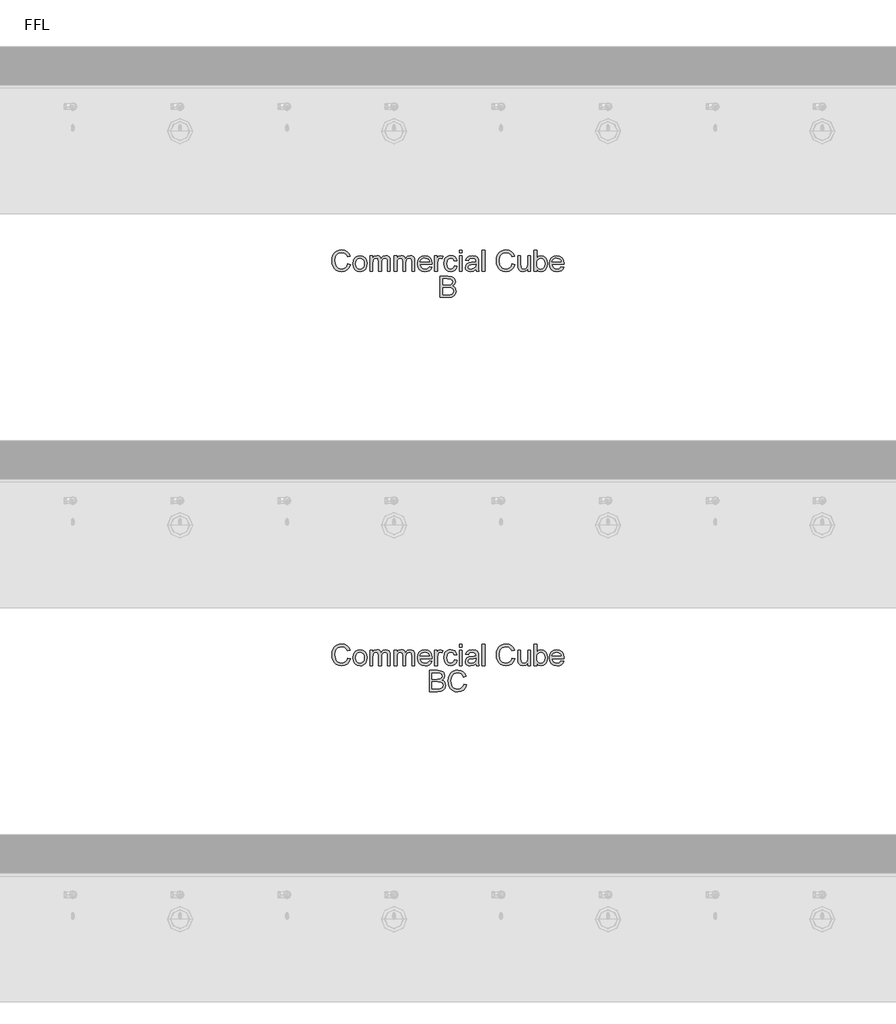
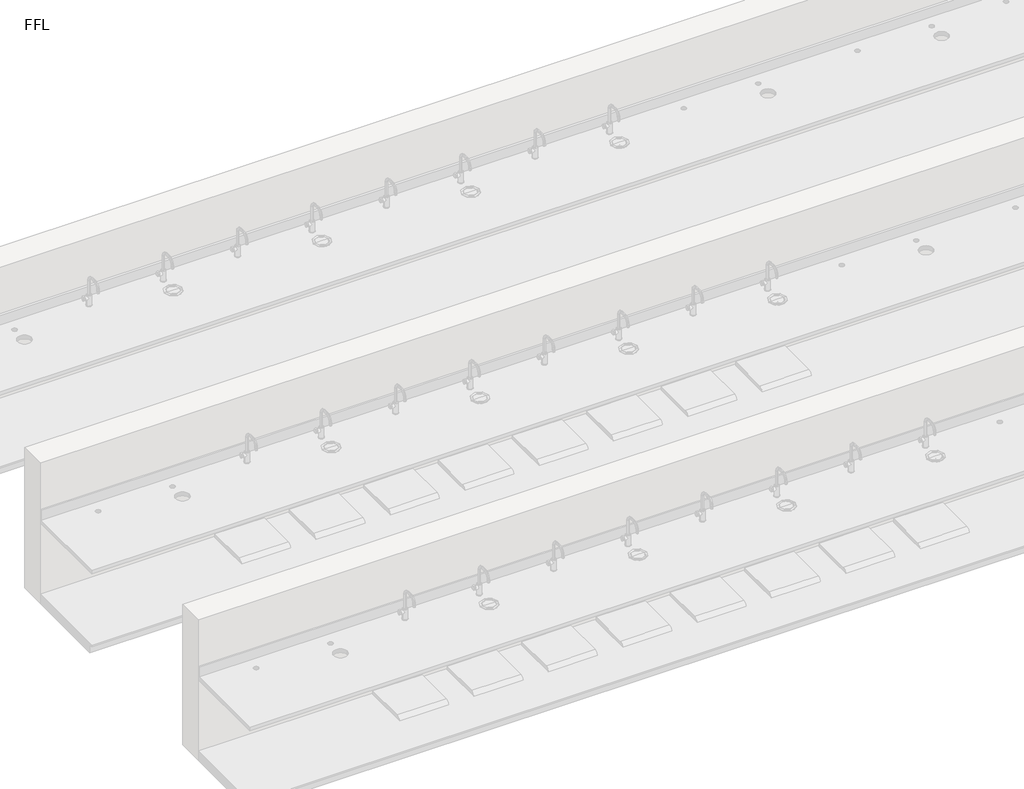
# One storey, part 12 of 14: 2 proxies.
"""IFC4 building model written with IfcOpenShell, lengths in millimetres."""

from ifc_helpers import new_model, si_unit, origin, origin_with_axes, place, context, project, spatial, polyline, outline, extrude, element, save

model = new_model("IFC4")

# Units and contexts
model_context = context("Model", 3, world=origin())
ifc_project = project(units=[si_unit("LENGTHUNIT", "METRE", prefix="MILLI")], contexts=[model_context])

# Site, building, storey
site = spatial("IfcSite", under=ifc_project)
building = spatial("IfcBuilding", under=site)
storey = spatial("IfcBuildingStorey", under=building, Name="FFL", Elevation=0.0)

# Proxies
placement = place(None, origin())
element("IfcBuildingElementProxy", 1, Name="150mm Arial", ObjectType="150mm Arial", at=placement, inside=storey, context=model_context, shape_type="SweptSolid", body=[
    extrude(outline(polyline([(-3043.9660621, 6596.3018309), (-3025.5045236, 6591.5422155), (-3034.0231534, 6570.0292948), (-3047.3915429, 6554.3126482), (-3064.951639, 6544.698766), (-3086.045389, 6541.4941386), (-3107.459151, 6543.9190184), (-3124.4648602, 6551.1936578), (-3137.4997159, 6563.065653), (-3147.0009179, 6579.2826001), (-3152.8016991, 6598.3481049), (-3154.7352929, 6618.7657732), (-3152.5492953, 6640.3012299), (-3145.9913025, 6658.8979847), (-3135.4038626, 6673.9655929), (-3121.1295236, 6684.9136097), (-3104.2004371, 6691.5797756), (-3085.6487544, 6693.8018309), (-3065.4068674, 6690.9262299), (-3048.6715909, 6682.299427), (-3035.9657616, 6668.4532732), (-3027.8122159, 6649.9196193), (-3046.2737544, 6645.5205809), (-3052.6739948, 6658.9836217), (-3061.4179852, 6668.2188982), (-3072.6138986, 6673.5599439), (-3086.3699083, 6675.3402924), (-3102.2262784, 6673.3661338), (-3115.2521198, 6667.4436578), (-3125.1364347, 6658.1948597), (-3131.5682256, 6646.2417347), (-3136.2737544, 6618.8018309), (-3130.7028409, 6586.9989463), (-3123.5814467, 6575.1224439), (-3113.3590909, 6566.6804367), (-3101.1039828, 6561.6368669), (-3087.8843313, 6559.955677), (-3072.4741751, 6562.2453405), (-3059.6331294, 6569.1143309), (-3049.9381174, 6580.4905328), (-3043.9660621, 6596.3018309)])), origin_with_axes(), (0.0, 0.0, 1.0), 5.0),
    extrude(outline(polyline([(-3007.0429852, 6598.0326001), (-3003.0495958, 6624.1834415), (-2991.0694275, 6642.5638501), (-2976.2677448, 6651.5692588), (-2958.545389, 6654.5710617), (-2939.1508578, 6650.9157131), (-2923.6595717, 6639.9496674), (-2913.5048241, 6622.5383092), (-2910.1199083, 6599.5470232), (-2911.6163025, 6580.8961818), (-2916.1054852, 6566.6984655), (-2923.4567472, 6556.0659535), (-2933.5393794, 6548.1107251), (-2945.5150405, 6543.1482852), (-2958.545389, 6541.4941386), (-2978.1742953, 6545.1359655), (-2993.6475525, 6556.0614463), (-3003.694127, 6573.8378886), (-3007.0429852, 6598.0326001)]), holes=[polyline([(-2988.5814467, 6598.0686578), (-2986.4450284, 6581.3604246), (-2980.0357736, 6569.456879), (-2970.3903409, 6562.3309775), (-2958.545389, 6559.955677), (-2946.7545236, 6562.3444992), (-2937.1271198, 6569.5109655), (-2930.717865, 6581.5722636), (-2928.5814467, 6598.6455809), (-2930.7313866, 6614.8670352), (-2937.1812063, 6626.6083213), (-2946.8221318, 6633.7342227), (-2958.545389, 6636.1095232), (-2970.3903409, 6633.7432371), (-2980.0357736, 6626.644379), (-2986.4450284, 6614.7678766), (-2988.5814467, 6598.0686578)])]), origin_with_axes(), (0.0, 0.0, 1.0), 5.0),
    extrude(outline(polyline([(-2889.3506775, 6543.8018309), (-2889.3506775, 6652.2633693), (-2870.889139, 6652.2633693), (-2870.889139, 6634.4148117), (-2858.1968313, 6649.0362059), (-2840.1319275, 6654.5710617), (-2829.8644996, 6653.1603044), (-2821.6343313, 6648.9280328), (-2811.4660621, 6633.1167347), (-2797.061014, 6649.2074799), (-2778.8699083, 6654.5710617), (-2764.9922039, 6652.3399919), (-2754.7292833, 6645.6467828), (-2748.3876366, 6634.3111458), (-2746.2737544, 6618.1527924), (-2746.2737544, 6543.8018309), (-2764.7352929, 6543.8018309), (-2764.7352929, 6610.2201001), (-2766.4480333, 6625.6347636), (-2772.6499563, 6633.2249078), (-2783.1968313, 6636.1095232), (-2793.1983337, 6634.2615665), (-2801.3518794, 6628.7176963), (-2806.7740549, 6619.0993068), (-2808.5814467, 6605.0277924), (-2808.5814467, 6543.8018309), (-2827.0429852, 6543.8018309), (-2827.0429852, 6612.2753886), (-2831.3158217, 6630.160004), (-2836.9543434, 6634.6221434), (-2845.3242352, 6636.1095232), (-2858.9901006, 6632.143177), (-2868.076639, 6620.5326001), (-2870.889139, 6598.5013501), (-2870.889139, 6543.8018309), (-2889.3506775, 6543.8018309)])), origin_with_axes(), (0.0, 0.0, 1.0), 5.0),
    extrude(outline(polyline([(-2718.5814467, 6543.8018309), (-2718.5814467, 6652.2633693), (-2700.1199083, 6652.2633693), (-2700.1199083, 6634.4148117), (-2687.4276006, 6649.0362059), (-2669.3626967, 6654.5710617), (-2659.0952688, 6653.1603044), (-2650.8651006, 6648.9280328), (-2640.6968313, 6633.1167347), (-2626.2917833, 6649.2074799), (-2608.1006775, 6654.5710617), (-2594.2229732, 6652.3399919), (-2583.9600525, 6645.6467828), (-2577.6184059, 6634.3111458), (-2575.5045236, 6618.1527924), (-2575.5045236, 6543.8018309), (-2593.9660621, 6543.8018309), (-2593.9660621, 6610.2201001), (-2595.6788025, 6625.6347636), (-2601.8807256, 6633.2249078), (-2612.4276006, 6636.1095232), (-2622.429103, 6634.2615665), (-2630.5826486, 6628.7176963), (-2636.0048241, 6619.0993068), (-2637.8122159, 6605.0277924), (-2637.8122159, 6543.8018309), (-2656.2737544, 6543.8018309), (-2656.2737544, 6612.2753886), (-2660.5465909, 6630.160004), (-2666.1851126, 6634.6221434), (-2674.5550044, 6636.1095232), (-2688.2208698, 6632.143177), (-2697.3074083, 6620.5326001), (-2700.1199083, 6598.5013501), (-2700.1199083, 6543.8018309), (-2718.5814467, 6543.8018309)])), origin_with_axes(), (0.0, 0.0, 1.0), 5.0),
    extrude(outline(polyline([(-2471.8747159, 6576.1095232), (-2453.7737544, 6573.8018309), (-2460.2956895, 6560.1630088), (-2470.7028409, 6549.9676963), (-2484.7608337, 6543.612528), (-2502.2352929, 6541.4941386), (-2523.8969515, 6545.1494871), (-2540.5646198, 6556.1155328), (-2551.1926246, 6573.6801362), (-2554.7352929, 6597.1311578), (-2551.1565669, 6621.3709415), (-2540.420389, 6639.4989463), (-2523.9780813, 6650.8030328), (-2503.2809659, 6654.5710617), (-2483.2283818, 6650.8120472), (-2467.2052448, 6639.535004), (-2456.6989347, 6621.4430568), (-2453.1968313, 6597.2393309), (-2453.3050044, 6592.2633693), (-2536.2737544, 6592.2633693), (-2533.0781414, 6578.4442588), (-2525.654764, 6568.285004), (-2514.9411222, 6562.0380088), (-2501.8747159, 6559.955677), (-2483.7737544, 6563.8138501), (-2471.8747159, 6576.1095232)]), holes=[polyline([(-2536.2737544, 6610.7249078), (-2471.6583698, 6610.7249078), (-2474.155365, 6620.4785136), (-2479.0501967, 6627.455677), (-2489.8134179, 6633.9460617), (-2503.3530813, 6636.1095232), (-2515.7974924, 6634.3832612), (-2526.0874563, 6629.2044751), (-2533.240401, 6621.1320592), (-2536.2737544, 6610.7249078)])]), origin_with_axes(), (0.0, 0.0, 1.0), 5.0),
    extrude(outline(polyline([(-2434.7352929, 6543.8018309), (-2434.7352929, 6652.2633693), (-2418.5814467, 6652.2633693), (-2418.5814467, 6636.2176963), (-2407.1151006, 6651.0013501), (-2395.576639, 6654.5710617), (-2377.0429852, 6648.8739463), (-2383.2088506, 6632.3234655), (-2396.1896198, 6636.1095232), (-2406.6283217, 6632.4676963), (-2413.2809659, 6622.3715424), (-2416.2737544, 6600.8090424), (-2416.2737544, 6543.8018309), (-2434.7352929, 6543.8018309)])), origin_with_axes(), (0.0, 0.0, 1.0), 5.0),
    extrude(outline(polyline([(-2296.2737544, 6583.0326001), (-2277.8122159, 6580.7249078), (-2282.9594515, 6564.3051362), (-2292.6319275, 6551.8967828), (-2305.9191871, 6544.0947996), (-2321.9107736, 6541.4941386), (-2341.5486943, 6545.1224439), (-2356.904764, 6556.0073597), (-2366.8161222, 6573.6711217), (-2370.1199083, 6597.6359655), (-2364.4768794, 6628.3030328), (-2357.3554852, 6639.8009294), (-2347.2773602, 6648.0085617), (-2335.2205693, 6652.9304367), (-2322.1631775, 6654.5710617), (-2306.5637184, 6652.3174559), (-2294.092264, 6645.5566386), (-2285.1454491, 6634.6491867), (-2280.1199083, 6619.955677), (-2298.5814467, 6617.6479847), (-2307.1451486, 6631.4761097), (-2322.0189467, 6636.1095232), (-2333.9495357, 6633.8288742), (-2343.4191871, 6626.986927), (-2349.5985741, 6615.2140905), (-2351.6583698, 6598.1407732), (-2349.6436462, 6580.8375881), (-2343.5994756, 6569.0241867), (-2334.3010982, 6562.2228044), (-2322.5237544, 6559.955677), (-2312.9639587, 6561.3709415), (-2305.1259179, 6565.6167347), (-2299.4242953, 6572.8012299), (-2296.2737544, 6583.0326001)])), origin_with_axes(), (0.0, 0.0, 1.0), 5.0),
    extrude(outline(polyline([(-2261.6583698, 6673.0326001), (-2261.6583698, 6691.4941386), (-2243.1968313, 6691.4941386), (-2243.1968313, 6673.0326001), (-2261.6583698, 6673.0326001)])), origin_with_axes(), (0.0, 0.0, 1.0), 5.0),
    extrude(outline(polyline([(-2261.6583698, 6543.8018309), (-2261.6583698, 6652.2633693), (-2243.1968313, 6652.2633693), (-2243.1968313, 6543.8018309), (-2261.6583698, 6543.8018309)])), origin_with_axes(), (0.0, 0.0, 1.0), 5.0),
    extrude(outline(polyline([(-2146.2737544, 6557.6479847), (-2164.1763986, 6545.1359655), (-2183.9540429, 6541.4941386), (-2199.382228, 6543.6846434), (-2210.7629371, 6550.2561578), (-2217.7806655, 6560.2351242), (-2220.1199083, 6572.6479847), (-2216.5862544, 6587.2513501), (-2207.3013986, 6597.8523117), (-2194.3747159, 6603.910004), (-2178.4011583, 6606.6864463), (-2146.3819275, 6613.0326001), (-2146.2737544, 6617.143177), (-2147.5447881, 6625.3823597), (-2151.357889, 6630.7729847), (-2159.8855333, 6634.7753886), (-2171.7665429, 6636.1095232), (-2190.4444275, 6632.5578405), (-2199.3506775, 6619.955677), (-2217.8122159, 6622.2633693), (-2209.8254371, 6640.2922155), (-2193.7437063, 6650.8571193), (-2169.3867352, 6654.5710617), (-2147.0129371, 6651.2898117), (-2134.3747159, 6643.050629), (-2128.7136583, 6630.5205809), (-2127.8122159, 6614.3667347), (-2127.8122159, 6591.3979847), (-2126.8747159, 6559.3246674), (-2123.1968313, 6543.8018309), (-2141.6583698, 6543.8018309), (-2146.2737544, 6557.6479847)]), holes=[polyline([(-2146.2737544, 6594.5710617), (-2176.0574083, 6588.910004), (-2191.9408217, 6585.9172155), (-2199.1343313, 6581.049427), (-2201.6583698, 6573.9460617), (-2196.1595717, 6563.9580809), (-2180.0237544, 6559.955677), (-2161.3458698, 6564.3727443), (-2149.3026006, 6575.0638501), (-2146.3819275, 6589.3426963), (-2146.2737544, 6594.5710617)])]), origin_with_axes(), (0.0, 0.0, 1.0), 5.0),
    extrude(outline(polyline([(-2102.4276006, 6543.8018309), (-2102.4276006, 6691.4941386), (-2083.9660621, 6691.4941386), (-2083.9660621, 6543.8018309), (-2102.4276006, 6543.8018309)])), origin_with_axes(), (0.0, 0.0, 1.0), 5.0),
    extrude(outline(polyline([(-1892.4276006, 6596.3018309), (-1873.9660621, 6591.5422155), (-1882.4846919, 6570.0292948), (-1895.8530813, 6554.3126482), (-1913.4131775, 6544.698766), (-1934.5069275, 6541.4941386), (-1955.9206895, 6543.9190184), (-1972.9263986, 6551.1936578), (-1985.9612544, 6563.065653), (-1995.4624563, 6579.2826001), (-2001.2632376, 6598.3481049), (-2003.1968313, 6618.7657732), (-2001.0108337, 6640.3012299), (-1994.4528409, 6658.8979847), (-1983.865401, 6673.9655929), (-1969.5910621, 6684.9136097), (-1952.6619756, 6691.5797756), (-1934.1102929, 6693.8018309), (-1913.8684059, 6690.9262299), (-1897.1331294, 6682.299427), (-1884.4273001, 6668.4532732), (-1876.2737544, 6649.9196193), (-1894.7352929, 6645.5205809), (-1901.1355333, 6658.9836217), (-1909.8795236, 6668.2188982), (-1921.0754371, 6673.5599439), (-1934.8314467, 6675.3402924), (-1950.6878169, 6673.3661338), (-1963.7136583, 6667.4436578), (-1973.5979732, 6658.1948597), (-1980.029764, 6646.2417347), (-1984.7352929, 6618.8018309), (-1979.1643794, 6586.9989463), (-1972.0429852, 6575.1224439), (-1961.8206294, 6566.6804367), (-1949.5655212, 6561.6368669), (-1936.3458698, 6559.955677), (-1920.9357135, 6562.2453405), (-1908.0946679, 6569.1143309), (-1898.3996559, 6580.4905328), (-1892.4276006, 6596.3018309)])), origin_with_axes(), (0.0, 0.0, 1.0), 5.0),
    extrude(outline(polyline([(-1781.6583698, 6543.8018309), (-1781.6583698, 6562.4436578), (-1796.1175044, 6546.7315184), (-1814.9756775, 6541.4941386), (-1832.3374563, 6545.1720232), (-1844.3086102, 6554.4027924), (-1849.8074083, 6567.9965424), (-1850.889139, 6585.160004), (-1850.889139, 6652.2633693), (-1832.4276006, 6652.2633693), (-1832.4276006, 6593.8499078), (-1831.3098121, 6575.0277924), (-1824.0081294, 6563.9761097), (-1810.2521198, 6559.955677), (-1794.8374563, 6564.066254), (-1784.6511583, 6575.2621674), (-1781.6583698, 6595.8330809), (-1781.6583698, 6652.2633693), (-1763.1968313, 6652.2633693), (-1763.1968313, 6543.8018309), (-1781.6583698, 6543.8018309)])), origin_with_axes(), (0.0, 0.0, 1.0), 5.0),
    extrude(outline(polyline([(-1719.3506775, 6543.8018309), (-1737.8122159, 6543.8018309), (-1737.8122159, 6691.4941386), (-1719.3506775, 6691.4941386), (-1719.3506775, 6636.722504), (-1706.4239948, 6650.1089222), (-1690.3602929, 6654.5710617), (-1671.8626967, 6650.550629), (-1657.5117352, 6639.2465424), (-1648.6956294, 6621.6684174), (-1645.5045236, 6599.6551963), (-1648.8083097, 6575.0097636), (-1658.7196679, 6556.674427), (-1673.2644395, 6545.2892107), (-1690.4684659, 6541.4941386), (-1706.8837304, 6546.3889703), (-1719.3506775, 6561.0734655), (-1719.3506775, 6543.8018309)]), holes=[polyline([(-1719.3506775, 6598.7898117), (-1718.0886583, 6583.393177), (-1714.3026006, 6572.972504), (-1704.6301246, 6563.2098838), (-1692.0550044, 6559.955677), (-1681.3999563, 6562.3535136), (-1672.295389, 6569.5470232), (-1666.0483938, 6581.4911338), (-1663.9660621, 6598.1407732), (-1665.9627568, 6615.033802), (-1671.9528409, 6626.8426963), (-1680.7734539, 6633.7928165), (-1691.2617352, 6636.1095232), (-1701.9167833, 6633.7116867), (-1711.0213506, 6626.518177), (-1717.2683458, 6614.7904126), (-1719.3506775, 6598.7898117)])]), origin_with_axes(), (0.0, 0.0, 1.0), 5.0),
    extrude(outline(polyline([(-1548.7977929, 6576.1095232), (-1530.6968313, 6573.8018309), (-1537.2187664, 6560.1630088), (-1547.6259179, 6549.9676963), (-1561.6839107, 6543.612528), (-1579.1583698, 6541.4941386), (-1600.8200284, 6545.1494871), (-1617.4876967, 6556.1155328), (-1628.1157015, 6573.6801362), (-1631.6583698, 6597.1311578), (-1628.0796438, 6621.3709415), (-1617.3434659, 6639.4989463), (-1600.9011583, 6650.8030328), (-1580.2040429, 6654.5710617), (-1560.1514587, 6650.8120472), (-1544.1283217, 6639.535004), (-1533.6220116, 6621.4430568), (-1530.1199083, 6597.2393309), (-1530.2280813, 6592.2633693), (-1613.1968313, 6592.2633693), (-1610.0012184, 6578.4442588), (-1602.5778409, 6568.285004), (-1591.8641991, 6562.0380088), (-1578.7977929, 6559.955677), (-1560.6968313, 6563.8138501), (-1548.7977929, 6576.1095232)]), holes=[polyline([(-1613.1968313, 6610.7249078), (-1548.5814467, 6610.7249078), (-1551.0784419, 6620.4785136), (-1555.9732736, 6627.455677), (-1566.7364948, 6633.9460617), (-1580.2761583, 6636.1095232), (-1592.7205693, 6634.3832612), (-1603.0105333, 6629.2044751), (-1610.163478, 6621.1320592), (-1613.1968313, 6610.7249078)])]), origin_with_axes(), (0.0, 0.0, 1.0), 5.0),
    extrude(outline(polyline([(-2396.6583698, 6361.4941386), (-2396.6583698, 6509.1864463), (-2340.3001967, 6509.1864463), (-2312.6980333, 6504.8414943), (-2303.4221919, 6499.3291746), (-2296.3999563, 6491.4821193), (-2290.5045236, 6472.5878886), (-2295.4624563, 6455.3342828), (-2310.4444275, 6442.2633693), (-2299.9831895, 6436.800629), (-2292.2533217, 6428.4893309), (-2287.4801847, 6417.8793549), (-2285.889139, 6405.5205809), (-2290.2340909, 6385.6708213), (-2300.9973121, 6371.5362059), (-2317.061014, 6364.0362059), (-2340.732889, 6361.4941386), (-2396.6583698, 6361.4941386)]), holes=[polyline([(-2378.1968313, 6449.1864463), (-2344.482889, 6449.1864463), (-2324.795389, 6450.7729847), (-2312.9504371, 6457.6059174), (-2308.9660621, 6469.6311578), (-2312.6800044, 6481.674427), (-2323.3170236, 6488.7958213), (-2347.0429852, 6490.7249078), (-2378.1968313, 6490.7249078), (-2378.1968313, 6449.1864463)]), polyline([(-2378.1968313, 6379.955677), (-2340.3362544, 6379.955677), (-2326.6343313, 6380.6768309), (-2315.0417833, 6384.6972636), (-2307.3614948, 6392.9003886), (-2304.3506775, 6405.3402924), (-2307.8843313, 6419.691254), (-2319.3326486, 6428.2549559), (-2342.139139, 6430.7249078), (-2378.1968313, 6430.7249078), (-2378.1968313, 6379.955677)])]), origin_with_axes(), (0.0, 0.0, 1.0), 5.0),
])
element("IfcBuildingElementProxy", 2, Name="150mm Arial", ObjectType="150mm Arial", at=placement, inside=storey, context=model_context, shape_type="SweptSolid", body=[
    extrude(outline(polyline([(-3043.9660621, 3836.3018309), (-3025.5045236, 3831.5422155), (-3034.0231534, 3810.0292948), (-3047.3915429, 3794.3126482), (-3064.951639, 3784.698766), (-3086.045389, 3781.4941386), (-3107.459151, 3783.9190184), (-3124.4648602, 3791.1936578), (-3137.4997159, 3803.065653), (-3147.0009179, 3819.2826001), (-3152.8016991, 3838.3481049), (-3154.7352929, 3858.7657732), (-3152.5492953, 3880.3012299), (-3145.9913025, 3898.8979847), (-3135.4038626, 3913.9655929), (-3121.1295236, 3924.9136097), (-3104.2004371, 3931.5797756), (-3085.6487544, 3933.8018309), (-3065.4068674, 3930.9262299), (-3048.6715909, 3922.299427), (-3035.9657616, 3908.4532732), (-3027.8122159, 3889.9196193), (-3046.2737544, 3885.5205809), (-3052.6739948, 3898.9836217), (-3061.4179852, 3908.2188982), (-3072.6138986, 3913.5599439), (-3086.3699083, 3915.3402924), (-3102.2262784, 3913.3661338), (-3115.2521198, 3907.4436578), (-3125.1364347, 3898.1948597), (-3131.5682256, 3886.2417347), (-3136.2737544, 3858.8018309), (-3130.7028409, 3826.9989463), (-3123.5814467, 3815.1224439), (-3113.3590909, 3806.6804367), (-3101.1039828, 3801.6368669), (-3087.8843313, 3799.955677), (-3072.4741751, 3802.2453405), (-3059.6331294, 3809.1143309), (-3049.9381174, 3820.4905328), (-3043.9660621, 3836.3018309)])), origin_with_axes(), (0.0, 0.0, 1.0), 5.0),
    extrude(outline(polyline([(-3007.0429852, 3838.0326001), (-3003.0495958, 3864.1834415), (-2991.0694275, 3882.5638501), (-2976.2677448, 3891.5692588), (-2958.545389, 3894.5710617), (-2939.1508578, 3890.9157131), (-2923.6595717, 3879.9496674), (-2913.5048241, 3862.5383092), (-2910.1199083, 3839.5470232), (-2911.6163025, 3820.8961818), (-2916.1054852, 3806.6984655), (-2923.4567472, 3796.0659535), (-2933.5393794, 3788.1107251), (-2945.5150405, 3783.1482852), (-2958.545389, 3781.4941386), (-2978.1742953, 3785.1359655), (-2993.6475525, 3796.0614463), (-3003.694127, 3813.8378886), (-3007.0429852, 3838.0326001)]), holes=[polyline([(-2988.5814467, 3838.0686578), (-2986.4450284, 3821.3604246), (-2980.0357736, 3809.456879), (-2970.3903409, 3802.3309775), (-2958.545389, 3799.955677), (-2946.7545236, 3802.3444992), (-2937.1271198, 3809.5109655), (-2930.717865, 3821.5722636), (-2928.5814467, 3838.6455809), (-2930.7313866, 3854.8670352), (-2937.1812063, 3866.6083213), (-2946.8221318, 3873.7342227), (-2958.545389, 3876.1095232), (-2970.3903409, 3873.7432371), (-2980.0357736, 3866.644379), (-2986.4450284, 3854.7678766), (-2988.5814467, 3838.0686578)])]), origin_with_axes(), (0.0, 0.0, 1.0), 5.0),
    extrude(outline(polyline([(-2889.3506775, 3783.8018309), (-2889.3506775, 3892.2633693), (-2870.889139, 3892.2633693), (-2870.889139, 3874.4148117), (-2858.1968313, 3889.0362059), (-2840.1319275, 3894.5710617), (-2829.8644996, 3893.1603044), (-2821.6343313, 3888.9280328), (-2811.4660621, 3873.1167347), (-2797.061014, 3889.2074799), (-2778.8699083, 3894.5710617), (-2764.9922039, 3892.3399919), (-2754.7292833, 3885.6467828), (-2748.3876366, 3874.3111458), (-2746.2737544, 3858.1527924), (-2746.2737544, 3783.8018309), (-2764.7352929, 3783.8018309), (-2764.7352929, 3850.2201001), (-2766.4480333, 3865.6347636), (-2772.6499563, 3873.2249078), (-2783.1968313, 3876.1095232), (-2793.1983337, 3874.2615665), (-2801.3518794, 3868.7176963), (-2806.7740549, 3859.0993068), (-2808.5814467, 3845.0277924), (-2808.5814467, 3783.8018309), (-2827.0429852, 3783.8018309), (-2827.0429852, 3852.2753886), (-2831.3158217, 3870.160004), (-2836.9543434, 3874.6221434), (-2845.3242352, 3876.1095232), (-2858.9901006, 3872.143177), (-2868.076639, 3860.5326001), (-2870.889139, 3838.5013501), (-2870.889139, 3783.8018309), (-2889.3506775, 3783.8018309)])), origin_with_axes(), (0.0, 0.0, 1.0), 5.0),
    extrude(outline(polyline([(-2718.5814467, 3783.8018309), (-2718.5814467, 3892.2633693), (-2700.1199083, 3892.2633693), (-2700.1199083, 3874.4148117), (-2687.4276006, 3889.0362059), (-2669.3626967, 3894.5710617), (-2659.0952688, 3893.1603044), (-2650.8651006, 3888.9280328), (-2640.6968313, 3873.1167347), (-2626.2917833, 3889.2074799), (-2608.1006775, 3894.5710617), (-2594.2229732, 3892.3399919), (-2583.9600525, 3885.6467828), (-2577.6184059, 3874.3111458), (-2575.5045236, 3858.1527924), (-2575.5045236, 3783.8018309), (-2593.9660621, 3783.8018309), (-2593.9660621, 3850.2201001), (-2595.6788025, 3865.6347636), (-2601.8807256, 3873.2249078), (-2612.4276006, 3876.1095232), (-2622.429103, 3874.2615665), (-2630.5826486, 3868.7176963), (-2636.0048241, 3859.0993068), (-2637.8122159, 3845.0277924), (-2637.8122159, 3783.8018309), (-2656.2737544, 3783.8018309), (-2656.2737544, 3852.2753886), (-2660.5465909, 3870.160004), (-2666.1851126, 3874.6221434), (-2674.5550044, 3876.1095232), (-2688.2208698, 3872.143177), (-2697.3074083, 3860.5326001), (-2700.1199083, 3838.5013501), (-2700.1199083, 3783.8018309), (-2718.5814467, 3783.8018309)])), origin_with_axes(), (0.0, 0.0, 1.0), 5.0),
    extrude(outline(polyline([(-2471.8747159, 3816.1095232), (-2453.7737544, 3813.8018309), (-2460.2956895, 3800.1630088), (-2470.7028409, 3789.9676963), (-2484.7608337, 3783.612528), (-2502.2352929, 3781.4941386), (-2523.8969515, 3785.1494871), (-2540.5646198, 3796.1155328), (-2551.1926246, 3813.6801362), (-2554.7352929, 3837.1311578), (-2551.1565669, 3861.3709415), (-2540.420389, 3879.4989463), (-2523.9780813, 3890.8030328), (-2503.2809659, 3894.5710617), (-2483.2283818, 3890.8120472), (-2467.2052448, 3879.535004), (-2456.6989347, 3861.4430568), (-2453.1968313, 3837.2393309), (-2453.3050044, 3832.2633693), (-2536.2737544, 3832.2633693), (-2533.0781414, 3818.4442588), (-2525.654764, 3808.285004), (-2514.9411222, 3802.0380088), (-2501.8747159, 3799.955677), (-2483.7737544, 3803.8138501), (-2471.8747159, 3816.1095232)]), holes=[polyline([(-2536.2737544, 3850.7249078), (-2471.6583698, 3850.7249078), (-2474.155365, 3860.4785136), (-2479.0501967, 3867.455677), (-2489.8134179, 3873.9460617), (-2503.3530813, 3876.1095232), (-2515.7974924, 3874.3832612), (-2526.0874563, 3869.2044751), (-2533.240401, 3861.1320592), (-2536.2737544, 3850.7249078)])]), origin_with_axes(), (0.0, 0.0, 1.0), 5.0),
    extrude(outline(polyline([(-2434.7352929, 3783.8018309), (-2434.7352929, 3892.2633693), (-2418.5814467, 3892.2633693), (-2418.5814467, 3876.2176963), (-2407.1151006, 3891.0013501), (-2395.576639, 3894.5710617), (-2377.0429852, 3888.8739463), (-2383.2088506, 3872.3234655), (-2396.1896198, 3876.1095232), (-2406.6283217, 3872.4676963), (-2413.2809659, 3862.3715424), (-2416.2737544, 3840.8090424), (-2416.2737544, 3783.8018309), (-2434.7352929, 3783.8018309)])), origin_with_axes(), (0.0, 0.0, 1.0), 5.0),
    extrude(outline(polyline([(-2296.2737544, 3823.0326001), (-2277.8122159, 3820.7249078), (-2282.9594515, 3804.3051362), (-2292.6319275, 3791.8967828), (-2305.9191871, 3784.0947996), (-2321.9107736, 3781.4941386), (-2341.5486943, 3785.1224439), (-2356.904764, 3796.0073597), (-2366.8161222, 3813.6711217), (-2370.1199083, 3837.6359655), (-2364.4768794, 3868.3030328), (-2357.3554852, 3879.8009294), (-2347.2773602, 3888.0085617), (-2335.2205693, 3892.9304367), (-2322.1631775, 3894.5710617), (-2306.5637184, 3892.3174559), (-2294.092264, 3885.5566386), (-2285.1454491, 3874.6491867), (-2280.1199083, 3859.955677), (-2298.5814467, 3857.6479847), (-2307.1451486, 3871.4761097), (-2322.0189467, 3876.1095232), (-2333.9495357, 3873.8288742), (-2343.4191871, 3866.986927), (-2349.5985741, 3855.2140905), (-2351.6583698, 3838.1407732), (-2349.6436462, 3820.8375881), (-2343.5994756, 3809.0241867), (-2334.3010982, 3802.2228044), (-2322.5237544, 3799.955677), (-2312.9639587, 3801.3709415), (-2305.1259179, 3805.6167347), (-2299.4242953, 3812.8012299), (-2296.2737544, 3823.0326001)])), origin_with_axes(), (0.0, 0.0, 1.0), 5.0),
    extrude(outline(polyline([(-2261.6583698, 3913.0326001), (-2261.6583698, 3931.4941386), (-2243.1968313, 3931.4941386), (-2243.1968313, 3913.0326001), (-2261.6583698, 3913.0326001)])), origin_with_axes(), (0.0, 0.0, 1.0), 5.0),
    extrude(outline(polyline([(-2261.6583698, 3783.8018309), (-2261.6583698, 3892.2633693), (-2243.1968313, 3892.2633693), (-2243.1968313, 3783.8018309), (-2261.6583698, 3783.8018309)])), origin_with_axes(), (0.0, 0.0, 1.0), 5.0),
    extrude(outline(polyline([(-2146.2737544, 3797.6479847), (-2164.1763986, 3785.1359655), (-2183.9540429, 3781.4941386), (-2199.382228, 3783.6846434), (-2210.7629371, 3790.2561578), (-2217.7806655, 3800.2351242), (-2220.1199083, 3812.6479847), (-2216.5862544, 3827.2513501), (-2207.3013986, 3837.8523117), (-2194.3747159, 3843.910004), (-2178.4011583, 3846.6864463), (-2146.3819275, 3853.0326001), (-2146.2737544, 3857.143177), (-2147.5447881, 3865.3823597), (-2151.357889, 3870.7729847), (-2159.8855333, 3874.7753886), (-2171.7665429, 3876.1095232), (-2190.4444275, 3872.5578405), (-2199.3506775, 3859.955677), (-2217.8122159, 3862.2633693), (-2209.8254371, 3880.2922155), (-2193.7437063, 3890.8571193), (-2169.3867352, 3894.5710617), (-2147.0129371, 3891.2898117), (-2134.3747159, 3883.050629), (-2128.7136583, 3870.5205809), (-2127.8122159, 3854.3667347), (-2127.8122159, 3831.3979847), (-2126.8747159, 3799.3246674), (-2123.1968313, 3783.8018309), (-2141.6583698, 3783.8018309), (-2146.2737544, 3797.6479847)]), holes=[polyline([(-2146.2737544, 3834.5710617), (-2176.0574083, 3828.910004), (-2191.9408217, 3825.9172155), (-2199.1343313, 3821.049427), (-2201.6583698, 3813.9460617), (-2196.1595717, 3803.9580809), (-2180.0237544, 3799.955677), (-2161.3458698, 3804.3727443), (-2149.3026006, 3815.0638501), (-2146.3819275, 3829.3426963), (-2146.2737544, 3834.5710617)])]), origin_with_axes(), (0.0, 0.0, 1.0), 5.0),
    extrude(outline(polyline([(-2102.4276006, 3783.8018309), (-2102.4276006, 3931.4941386), (-2083.9660621, 3931.4941386), (-2083.9660621, 3783.8018309), (-2102.4276006, 3783.8018309)])), origin_with_axes(), (0.0, 0.0, 1.0), 5.0),
    extrude(outline(polyline([(-1892.4276006, 3836.3018309), (-1873.9660621, 3831.5422155), (-1882.4846919, 3810.0292948), (-1895.8530813, 3794.3126482), (-1913.4131775, 3784.698766), (-1934.5069275, 3781.4941386), (-1955.9206895, 3783.9190184), (-1972.9263986, 3791.1936578), (-1985.9612544, 3803.065653), (-1995.4624563, 3819.2826001), (-2001.2632376, 3838.3481049), (-2003.1968313, 3858.7657732), (-2001.0108337, 3880.3012299), (-1994.4528409, 3898.8979847), (-1983.865401, 3913.9655929), (-1969.5910621, 3924.9136097), (-1952.6619756, 3931.5797756), (-1934.1102929, 3933.8018309), (-1913.8684059, 3930.9262299), (-1897.1331294, 3922.299427), (-1884.4273001, 3908.4532732), (-1876.2737544, 3889.9196193), (-1894.7352929, 3885.5205809), (-1901.1355333, 3898.9836217), (-1909.8795236, 3908.2188982), (-1921.0754371, 3913.5599439), (-1934.8314467, 3915.3402924), (-1950.6878169, 3913.3661338), (-1963.7136583, 3907.4436578), (-1973.5979732, 3898.1948597), (-1980.029764, 3886.2417347), (-1984.7352929, 3858.8018309), (-1979.1643794, 3826.9989463), (-1972.0429852, 3815.1224439), (-1961.8206294, 3806.6804367), (-1949.5655212, 3801.6368669), (-1936.3458698, 3799.955677), (-1920.9357135, 3802.2453405), (-1908.0946679, 3809.1143309), (-1898.3996559, 3820.4905328), (-1892.4276006, 3836.3018309)])), origin_with_axes(), (0.0, 0.0, 1.0), 5.0),
    extrude(outline(polyline([(-1781.6583698, 3783.8018309), (-1781.6583698, 3802.4436578), (-1796.1175044, 3786.7315184), (-1814.9756775, 3781.4941386), (-1832.3374563, 3785.1720232), (-1844.3086102, 3794.4027924), (-1849.8074083, 3807.9965424), (-1850.889139, 3825.160004), (-1850.889139, 3892.2633693), (-1832.4276006, 3892.2633693), (-1832.4276006, 3833.8499078), (-1831.3098121, 3815.0277924), (-1824.0081294, 3803.9761097), (-1810.2521198, 3799.955677), (-1794.8374563, 3804.066254), (-1784.6511583, 3815.2621674), (-1781.6583698, 3835.8330809), (-1781.6583698, 3892.2633693), (-1763.1968313, 3892.2633693), (-1763.1968313, 3783.8018309), (-1781.6583698, 3783.8018309)])), origin_with_axes(), (0.0, 0.0, 1.0), 5.0),
    extrude(outline(polyline([(-1719.3506775, 3783.8018309), (-1737.8122159, 3783.8018309), (-1737.8122159, 3931.4941386), (-1719.3506775, 3931.4941386), (-1719.3506775, 3876.722504), (-1706.4239948, 3890.1089222), (-1690.3602929, 3894.5710617), (-1671.8626967, 3890.550629), (-1657.5117352, 3879.2465424), (-1648.6956294, 3861.6684174), (-1645.5045236, 3839.6551963), (-1648.8083097, 3815.0097636), (-1658.7196679, 3796.674427), (-1673.2644395, 3785.2892107), (-1690.4684659, 3781.4941386), (-1706.8837304, 3786.3889703), (-1719.3506775, 3801.0734655), (-1719.3506775, 3783.8018309)]), holes=[polyline([(-1719.3506775, 3838.7898117), (-1718.0886583, 3823.393177), (-1714.3026006, 3812.972504), (-1704.6301246, 3803.2098838), (-1692.0550044, 3799.955677), (-1681.3999563, 3802.3535136), (-1672.295389, 3809.5470232), (-1666.0483938, 3821.4911338), (-1663.9660621, 3838.1407732), (-1665.9627568, 3855.033802), (-1671.9528409, 3866.8426963), (-1680.7734539, 3873.7928165), (-1691.2617352, 3876.1095232), (-1701.9167833, 3873.7116867), (-1711.0213506, 3866.518177), (-1717.2683458, 3854.7904126), (-1719.3506775, 3838.7898117)])]), origin_with_axes(), (0.0, 0.0, 1.0), 5.0),
    extrude(outline(polyline([(-1548.7977929, 3816.1095232), (-1530.6968313, 3813.8018309), (-1537.2187664, 3800.1630088), (-1547.6259179, 3789.9676963), (-1561.6839107, 3783.612528), (-1579.1583698, 3781.4941386), (-1600.8200284, 3785.1494871), (-1617.4876967, 3796.1155328), (-1628.1157015, 3813.6801362), (-1631.6583698, 3837.1311578), (-1628.0796438, 3861.3709415), (-1617.3434659, 3879.4989463), (-1600.9011583, 3890.8030328), (-1580.2040429, 3894.5710617), (-1560.1514587, 3890.8120472), (-1544.1283217, 3879.535004), (-1533.6220116, 3861.4430568), (-1530.1199083, 3837.2393309), (-1530.2280813, 3832.2633693), (-1613.1968313, 3832.2633693), (-1610.0012184, 3818.4442588), (-1602.5778409, 3808.285004), (-1591.8641991, 3802.0380088), (-1578.7977929, 3799.955677), (-1560.6968313, 3803.8138501), (-1548.7977929, 3816.1095232)]), holes=[polyline([(-1613.1968313, 3850.7249078), (-1548.5814467, 3850.7249078), (-1551.0784419, 3860.4785136), (-1555.9732736, 3867.455677), (-1566.7364948, 3873.9460617), (-1580.2761583, 3876.1095232), (-1592.7205693, 3874.3832612), (-1603.0105333, 3869.2044751), (-1610.163478, 3861.1320592), (-1613.1968313, 3850.7249078)])]), origin_with_axes(), (0.0, 0.0, 1.0), 5.0),
    extrude(outline(polyline([(-2470.5045236, 3601.4941386), (-2470.5045236, 3749.1864463), (-2414.1463506, 3749.1864463), (-2386.5441871, 3744.8414943), (-2377.2683458, 3739.3291746), (-2370.2461102, 3731.4821193), (-2364.3506775, 3712.5878886), (-2369.3086102, 3695.3342828), (-2384.2905813, 3682.2633693), (-2373.8293434, 3676.800629), (-2366.0994756, 3668.4893309), (-2361.3263385, 3657.8793549), (-2359.7352929, 3645.5205809), (-2364.0802448, 3625.6708213), (-2374.8434659, 3611.5362059), (-2390.9071679, 3604.0362059), (-2414.5790429, 3601.4941386), (-2470.5045236, 3601.4941386)]), holes=[polyline([(-2452.0429852, 3689.1864463), (-2418.3290429, 3689.1864463), (-2398.6415429, 3690.7729847), (-2386.7965909, 3697.6059174), (-2382.8122159, 3709.6311578), (-2386.5261583, 3721.674427), (-2397.1631775, 3728.7958213), (-2420.889139, 3730.7249078), (-2452.0429852, 3730.7249078), (-2452.0429852, 3689.1864463)]), polyline([(-2452.0429852, 3619.955677), (-2414.1824083, 3619.955677), (-2400.4804852, 3620.6768309), (-2388.8879371, 3624.6972636), (-2381.2076486, 3632.9003886), (-2378.1968313, 3645.3402924), (-2381.7304852, 3659.691254), (-2393.1788025, 3668.2549559), (-2415.9852929, 3670.7249078), (-2452.0429852, 3670.7249078), (-2452.0429852, 3619.955677)])]), origin_with_axes(), (0.0, 0.0, 1.0), 5.0),
    extrude(outline(polyline([(-2230.5045236, 3653.9941386), (-2212.0429852, 3649.2345232), (-2220.561615, 3627.7216025), (-2233.9300044, 3612.0049559), (-2251.4901006, 3602.3910737), (-2272.5838506, 3599.1864463), (-2293.9976126, 3601.6113261), (-2311.0033217, 3608.8859655), (-2324.0381775, 3620.7579607), (-2333.5393794, 3636.9749078), (-2339.3401607, 3656.0404126), (-2341.2737544, 3676.4580809), (-2339.0877568, 3697.9935376), (-2332.529764, 3716.5902924), (-2321.9423241, 3731.6579006), (-2307.6679852, 3742.6059174), (-2290.7388986, 3749.2720833), (-2272.1872159, 3751.4941386), (-2251.9453289, 3748.6185376), (-2235.2100525, 3739.9917347), (-2222.5042232, 3726.1455809), (-2214.3506775, 3707.611927), (-2232.8122159, 3703.2128886), (-2239.2124563, 3716.6759294), (-2247.9564467, 3725.9112059), (-2259.1523602, 3731.2522516), (-2272.9083698, 3733.0326001), (-2288.76474, 3731.0584415), (-2301.7905813, 3725.1359655), (-2311.6748962, 3715.8871674), (-2318.1066871, 3703.9340424), (-2322.8122159, 3676.4941386), (-2317.2413025, 3644.691254), (-2310.1199083, 3632.8147516), (-2299.8975525, 3624.3727443), (-2287.6424443, 3619.3291746), (-2274.4227929, 3617.6479847), (-2259.0126366, 3619.9376482), (-2246.1715909, 3626.8066386), (-2236.4765789, 3638.1828405), (-2230.5045236, 3653.9941386)])), origin_with_axes(), (0.0, 0.0, 1.0), 5.0),
])

save(model, "model.ifc")
